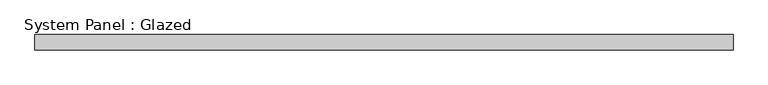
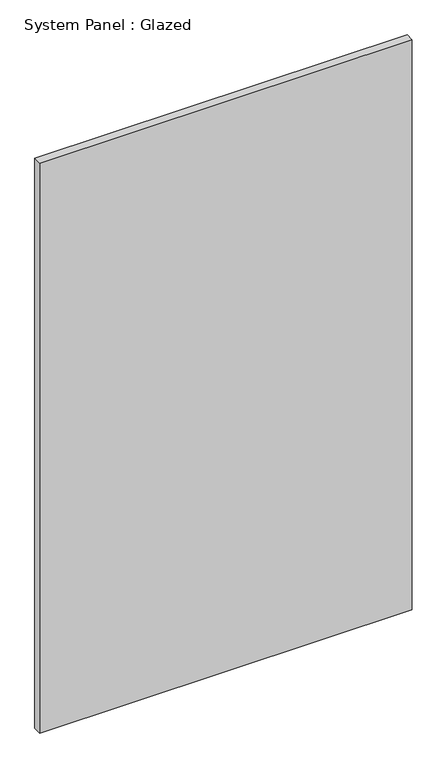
"""IFC4 building model written with IfcOpenShell, lengths in millimetres: plate geometry, System Panel : Glazed."""

from ifc_helpers import new_model, si_unit, origin, origin_with_axes, place, context, project, spatial, polyline, outline, extrude, source, transform, mapped, element, save


def system_panel_glazed_23c7b05c(model_context):
    return source(origin(), model_context, "Body", "SweptSolid", [
        extrude(outline(polyline([(573.4875, -49.5), (-573.4875, -49.5), (-573.4875, -24.5), (573.4875, -24.5), (573.4875, -49.5)])), origin_with_axes(), (0.0, 0.0, 1.0), 1854.4),
    ])


if __name__ == "__main__":
    model = new_model("IFC4")
    model_context = context("Model", 3, world=origin())
    ifc_project = project(units=[si_unit("LENGTHUNIT", "METRE", prefix="MILLI")], contexts=[model_context])
    site = spatial("IfcSite", under=ifc_project)
    building = spatial("IfcBuilding", under=site)
    placement = place(None, origin())
    system_panel_glazed_shape = system_panel_glazed_23c7b05c(model_context)
    element("IfcPlate", 1, ObjectType="System Panel : Glazed", at=placement, inside=building, context=model_context, shape_type="MappedRepresentation", body=[
        mapped(system_panel_glazed_shape, transform((0.0, 0.0, 0.0), x_axis=(1.0, 0.0, 0.0), y_axis=(0.0, 1.0, 0.0), z_axis=(0.0, 0.0, 1.0))),
    ])
    save(model, "model.ifc")
